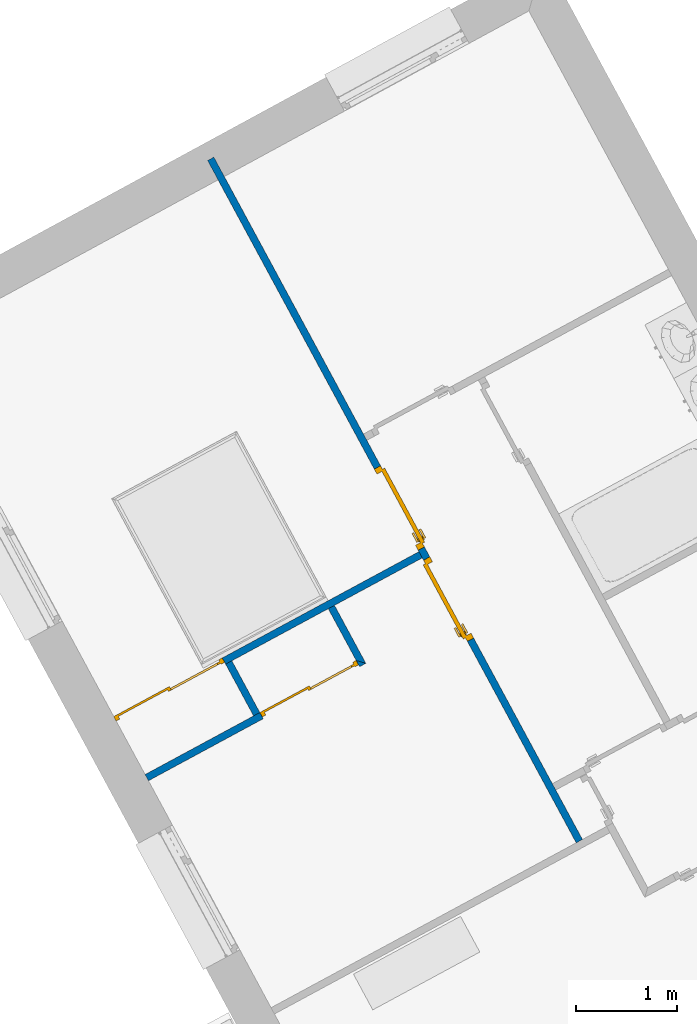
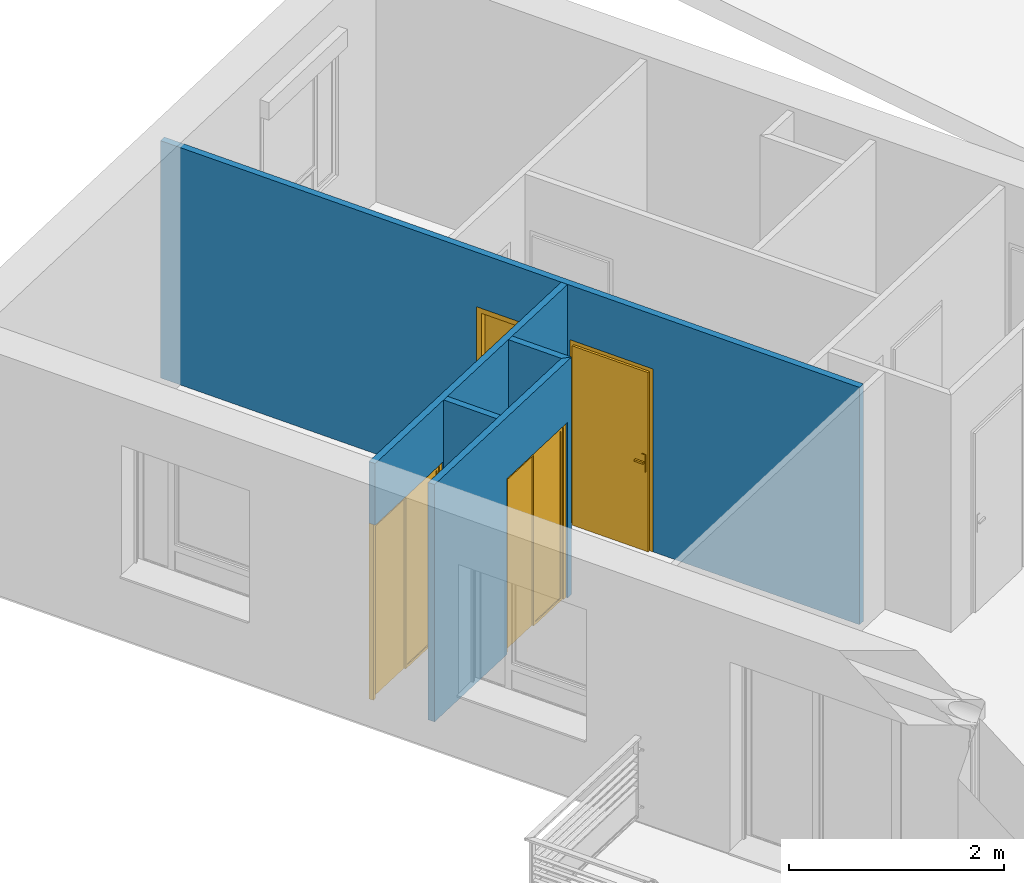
# One storey, part 53 of 121: 5 walls, 4 doors, 4 openings.
"""IFC2X3 building model written with IfcOpenShell, lengths in metres."""

import ifcopenshell
import ifcopenshell.guid

model = None  # the IFC model being written
_history = None  # IfcOwnerHistory: only IFC2X3 demands one
_inside = {}  # id of a spatial element -> (the spatial element, [elements in it])
_under = {}  # id of a project, library or spatial element -> (it, [spatial elements below it])
_declared = {}  # id of a project -> (the project, [libraries it declares])
_typed = {}  # id of a type object -> (the type object, [elements of that type])
_made_of = {}  # id of a material, layer set ... -> (it, [elements and type objects made of it])


def new_model(schema):
    """Start an empty IFC model of exactly this schema.

    Asked for "IFC4X3", IfcOpenShell would pick the latest addendum, in which some entities
    have other attributes; the version numbers below select the first issue.
    IFC2X3 requires an IfcOwnerHistory on every rooted entity: one is made here for all.
    """
    global model, _history
    if schema == "IFC4X3":
        model = ifcopenshell.file(schema_version=(4, 3, 0, 0))
    else:
        model = ifcopenshell.file(schema=schema)
    _inside.clear()
    _under.clear()
    _declared.clear()
    _typed.clear()
    _made_of.clear()
    _history = None
    if model.schema == "IFC2X3":
        org = make("IfcOrganization", Name="unknown")
        user = make(
            "IfcPersonAndOrganization",
            ThePerson=make("IfcPerson", FamilyName="unknown"),
            TheOrganization=org,
        )
        app = make(
            "IfcApplication",
            ApplicationDeveloper=org,
            Version="unknown",
            ApplicationFullName="unknown",
            ApplicationIdentifier="unknown",
        )
        _history = make(
            "IfcOwnerHistory",
            OwningUser=user,
            OwningApplication=app,
            ChangeAction="ADDED",
            CreationDate=0,
        )
    return model


def make(cls, **values):
    """One entity of the class cls with the attributes given. An attribute that is None is left unset."""
    return model.create_entity(
        cls, **{name: value for name, value in values.items() if value is not None}
    )


def entity(cls, *values):
    """Any entity or typed value of the class cls, its attributes in the order of the schema. None: left unset."""
    e = model.create_entity(cls)
    for i, value in enumerate(values):
        if value is not None:
            e[i] = value
    return e


def rooted(cls, **values):
    """An entity with a GlobalId (a new one), such as an element, a storey or a relation."""
    return make(cls, GlobalId=ifcopenshell.guid.new(), OwnerHistory=_history, **values)


def si_unit(unit_type, name, prefix=None):
    """IfcSIUnit, for example si_unit("LENGTHUNIT", "METRE", prefix="MILLI")."""
    return make("IfcSIUnit", UnitType=unit_type, Prefix=prefix, Name=name)


def converted_unit(unit_type, name, factor, base, dimensions=None, offset=None):
    """IfcConversionBasedUnit, such as the inch: factor (a typed value) times the base unit."""
    return make(
        "IfcConversionBasedUnit"
        if offset is None
        else "IfcConversionBasedUnitWithOffset",
        ConversionOffset=offset,
        Dimensions=None
        if dimensions is None
        else entity("IfcDimensionalExponents", *dimensions),
        UnitType=unit_type,
        Name=name,
        ConversionFactor=make(
            "IfcMeasureWithUnit", ValueComponent=factor, UnitComponent=base
        ),
    )


def derived_unit(unit_type, elements):
    """IfcDerivedUnit: a product of units, each with its exponent."""
    return make(
        "IfcDerivedUnit",
        Elements=[
            make("IfcDerivedUnitElement", Unit=unit, Exponent=power)
            for unit, power in elements
        ],
        UnitType=unit_type,
    )


def money_unit(currency):
    """IfcMonetaryUnit."""
    return make("IfcMonetaryUnit", Currency=currency)


def assignment(units):
    """IfcUnitAssignment: the units of a project."""
    return None if units is None else make("IfcUnitAssignment", Units=units)


def point(xyz):
    """IfcCartesianPoint."""
    return None if xyz is None else make("IfcCartesianPoint", Coordinates=xyz)


def direction(xyz):
    """IfcDirection."""
    return None if xyz is None else make("IfcDirection", DirectionRatios=xyz)


def frame(location, z_axis=None, x_axis=None):
    """IfcAxis2Placement3D, a coordinate frame: its origin and axes. An axis left out is left unset."""
    return make(
        "IfcAxis2Placement3D",
        Location=point(location),
        Axis=direction(z_axis),
        RefDirection=direction(x_axis),
    )


def frame_2d(location, x_axis=None):
    """IfcAxis2Placement2D, a coordinate frame in the plane: its origin and x axis."""
    return make(
        "IfcAxis2Placement2D", Location=point(location), RefDirection=direction(x_axis)
    )


def origin_with_axes():
    """The frame at (0, 0, 0) with the z axis (0, 0, 1) and the x axis (1, 0, 0) written out."""
    return frame((0.0, 0.0, 0.0), z_axis=(0.0, 0.0, 1.0), x_axis=(1.0, 0.0, 0.0))


def origin_2d_with_axis():
    """The frame at (0, 0) in the plane with the x axis (1, 0) written out."""
    return frame_2d((0.0, 0.0), x_axis=(1.0, 0.0))


def place(relative_to, where):
    """IfcLocalPlacement: puts the frame where relative to a parent placement (None: the world)."""
    return make(
        "IfcLocalPlacement", PlacementRelTo=relative_to, RelativePlacement=where
    )


def context(
    kind, dimensions, precision=None, world=None, true_north=None, identifier=None
):
    """IfcGeometricRepresentationContext, for example the 3D "Model" context."""
    return make(
        "IfcGeometricRepresentationContext",
        ContextIdentifier=identifier,
        ContextType=kind,
        CoordinateSpaceDimension=dimensions,
        Precision=precision,
        WorldCoordinateSystem=world,
        TrueNorth=true_north,
    )


def subcontext(parent, identifier, kind, view, scale=None):
    """IfcGeometricRepresentationSubContext, for example "Body" below "Model"."""
    return make(
        "IfcGeometricRepresentationSubContext",
        ContextIdentifier=identifier,
        ContextType=kind,
        ParentContext=parent,
        TargetScale=scale,
        TargetView=view,
    )


def project(units=None, contexts=None):
    """IfcProject with its units and contexts."""
    return rooted(
        "IfcProject",
        Name="project",
        RepresentationContexts=contexts,
        UnitsInContext=assignment(units),
    )


def spatial(cls, under=None, at=None, **own):
    """A site, building, storey or space (cls), placed at a placement, below another one or the project."""
    s = rooted(cls, ObjectPlacement=at, **own)
    if under is not None:
        _under.setdefault(under.id(), (under, []))[1].append(s)
    return s


def polyline(points):
    """IfcPolyline through the points."""
    return make("IfcPolyline", Points=[point(p) for p in points])


def profile(cls, at=None, kind="AREA", **sizes):
    """A parametric profile (cls). Its sizes go by their IFC names, for example OverallWidth=200.0."""
    return make(cls, ProfileType=kind, Position=at, **sizes)


def rectangle(**sizes):
    """IfcRectangleProfileDef."""
    return profile("IfcRectangleProfileDef", **sizes)


def outline(outer, holes=None, kind="AREA"):
    """IfcArbitraryClosedProfileDef: a profile drawn as a closed curve; with holes, ...WithVoids."""
    if holes is None:
        return make("IfcArbitraryClosedProfileDef", ProfileType=kind, OuterCurve=outer)
    return make(
        "IfcArbitraryProfileDefWithVoids",
        ProfileType=kind,
        OuterCurve=outer,
        InnerCurves=holes,
    )


def extrude(swept, where, along, depth):
    """IfcExtrudedAreaSolid: the profile swept, set in the frame where, extruded along a direction by depth."""
    return make(
        "IfcExtrudedAreaSolid",
        SweptArea=swept,
        Position=where,
        ExtrudedDirection=direction(along),
        Depth=depth,
    )


def faces_of(points, faces, orient=None, outer=None):
    """IfcFace entities. A face is a list of loops; a loop is a list of indices into points, from 0.

    orient and outer hold one flag for each loop. By default every Orientation is true, the
    first loop of a face is its IfcFaceOuterBound and the others are IfcFaceBound.
    """
    made = []
    for i, loops in enumerate(faces):
        bounds = []
        for j, loop in enumerate(loops):
            is_outer = j == 0 if outer is None else outer[i][j]
            bounds.append(
                make(
                    "IfcFaceOuterBound" if is_outer else "IfcFaceBound",
                    Bound=make("IfcPolyLoop", Polygon=[points[k] for k in loop]),
                    Orientation=True if orient is None else orient[i][j],
                )
            )
        made.append(make("IfcFace", Bounds=bounds))
    return made


def open_shell(faces, orient=None, outer=None):
    """The faces of one IfcOpenShell. surface_model builds it on its shared points."""
    return ("IfcOpenShell", faces, orient, outer)


def faceted_brep(points, faces, orient=None, outer=None, voids=None):
    """IfcFacetedBrep: a solid bounded by flat faces; with voids (closed shells), ...WithVoids."""
    shared = [point(p) for p in points]
    hull = make("IfcClosedShell", CfsFaces=faces_of(shared, faces, orient, outer))
    if voids is None:
        return make("IfcFacetedBrep", Outer=hull)
    return make(
        "IfcFacetedBrepWithVoids",
        Outer=hull,
        Voids=[
            make(cls, CfsFaces=faces_of(shared, fs, o, b)) for cls, fs, o, b in voids
        ],
    )


def surface_model(cls, points, shells):
    """IfcFaceBasedSurfaceModel or IfcShellBasedSurfaceModel (cls): surfaces that need not close."""
    shared = [point(p) for p in points]
    made = [make(c, CfsFaces=faces_of(shared, fs, o, b)) for c, fs, o, b in shells]
    if cls == "IfcFaceBasedSurfaceModel":
        return make(cls, FbsmFaces=made)
    return make(cls, SbsmBoundary=made)


def shape(context_of_items, identifier, shape_type, items):
    """IfcShapeRepresentation: the items that make up one representation, for example the "Body"."""
    return make(
        "IfcShapeRepresentation",
        ContextOfItems=context_of_items,
        RepresentationIdentifier=identifier,
        RepresentationType=shape_type,
        Items=items,
    )


def source(mapping_origin, context_of_items, identifier, shape_type, items):
    """IfcRepresentationMap: a shape defined once, which mapped items show again and again."""
    return make(
        "IfcRepresentationMap",
        MappingOrigin=mapping_origin,
        MappedRepresentation=shape(context_of_items, identifier, shape_type, items),
    )


def transform(
    local_origin,
    x_axis=None,
    y_axis=None,
    z_axis=None,
    scale=None,
    scale2=None,
    scale3=None,
    uniform=True,
):
    """IfcCartesianTransformationOperator3D, or its non-uniform kind. x_axis, y_axis, z_axis: its Axis1, 2, 3."""
    if uniform:
        return make(
            "IfcCartesianTransformationOperator3D",
            Axis1=direction(x_axis),
            Axis2=direction(y_axis),
            LocalOrigin=point(local_origin),
            Scale=scale,
            Axis3=direction(z_axis),
        )
    return make(
        "IfcCartesianTransformationOperator3DnonUniform",
        Axis1=direction(x_axis),
        Axis2=direction(y_axis),
        LocalOrigin=point(local_origin),
        Scale=scale,
        Axis3=direction(z_axis),
        Scale2=scale2,
        Scale3=scale3,
    )


def mapped(mapping_source, mapping_target):
    """IfcMappedItem: shows the shape of a source again, moved by a transform."""
    return make(
        "IfcMappedItem", MappingSource=mapping_source, MappingTarget=mapping_target
    )


def material(Name=None, Category=None):
    """IfcMaterial."""
    return make("IfcMaterial", Name=Name, Category=Category)


def layer(
    of_material, thickness, ventilated=None, Name=None, Category=None, Priority=None
):
    """IfcMaterialLayer: one layer of a wall or slab, of a material (None: an air gap)."""
    return make(
        "IfcMaterialLayer",
        Material=of_material,
        LayerThickness=thickness,
        IsVentilated=ventilated,
        Name=Name,
        Category=Category,
        Priority=Priority,
    )


def layer_set(layers, Name=None):
    """IfcMaterialLayerSet."""
    return make("IfcMaterialLayerSet", MaterialLayers=layers, LayerSetName=Name)


def layer_usage(for_layer_set, set_direction, sense, offset, extent=None):
    """IfcMaterialLayerSetUsage: how a layer set lies in its element."""
    return make(
        "IfcMaterialLayerSetUsage",
        ForLayerSet=for_layer_set,
        LayerSetDirection=set_direction,
        DirectionSense=sense,
        OffsetFromReferenceLine=offset,
        ReferenceExtent=extent,
    )


def made_of(thing, what):
    """Note that an element or type object is made of a material, layer set ...; save() writes the relation."""
    if what is not None:
        _made_of.setdefault(what.id(), (what, []))[1].append(thing)
    return thing


def type_object(cls, material=None, **own):
    """A type object (cls), such as IfcWallType, which elements share."""
    return made_of(rooted(cls, **own), material)


def element(
    cls,
    number,
    at=None,
    inside=None,
    cuts=None,
    type_object=None,
    material=None,
    context=None,
    identifier="Body",
    shape_type=None,
    held_by="IfcProductDefinitionShape",
    body=None,
    shapes=None,
    **own,
):
    """One element of the class cls, such as IfcWall. Its Tag is "e" and its number.

    at: its placement. inside: the storey or other place that contains it. cuts: it is an
    opening in that element (IfcRelVoidsElement). A single representation is given by context,
    identifier, shape_type and body (its items); several are given by shapes. held_by: the class
    of the entity that holds the representations. save() writes the other relations.
    """
    e = rooted(cls, Tag="e%d" % number, ObjectPlacement=at, **own)
    if body is not None:
        shapes = [shape(context, identifier, shape_type, body)]
    if shapes is not None:
        e.Representation = make(held_by, Representations=shapes)
    if inside is not None:
        _inside.setdefault(inside.id(), (inside, []))[1].append(e)
    if cuts is not None:
        rooted(
            "IfcRelVoidsElement", RelatingBuildingElement=cuts, RelatedOpeningElement=e
        )
    if type_object is not None:
        _typed.setdefault(type_object.id(), (type_object, []))[1].append(e)
    return made_of(e, material)


def fill(opening, filler):
    """IfcRelFillsElement: the door or window that sits in an opening."""
    return rooted(
        "IfcRelFillsElement",
        RelatingOpeningElement=opening,
        RelatedBuildingElement=filler,
    )


def aggregate(whole, parts):
    """IfcRelAggregates: a whole, such as a stair, and the parts it consists of."""
    return rooted("IfcRelAggregates", RelatingObject=whole, RelatedObjects=parts)


def save(model, path):
    """Write the relations noted so far, then the file.

    IfcRelAggregates (storeys below a building ...), IfcRelContainedInSpatialStructure (elements
    in a storey), IfcRelDefinesByType, IfcRelAssociatesMaterial and IfcRelDeclares: one each for
    every whole, place, type object, material and project.
    """
    for whole, parts in _under.values():
        aggregate(whole, parts)
    for where, things in _inside.values():
        rooted(
            "IfcRelContainedInSpatialStructure",
            RelatedElements=things,
            RelatingStructure=where,
        )
    for kind, things in _typed.values():
        rooted("IfcRelDefinesByType", RelatedObjects=things, RelatingType=kind)
    for what, things in _made_of.values():
        rooted("IfcRelAssociatesMaterial", RelatedObjects=things, RelatingMaterial=what)
    for by, libraries in _declared.values():
        rooted("IfcRelDeclares", RelatingContext=by, RelatedDefinitions=libraries)
    model.write(path)


model = new_model("IFC2X3")

# Units and contexts
model_context = context("Model", 3, precision=1e-05, world=origin_with_axes(), true_north=direction((0.0, 1.0)))
body_context = subcontext(model_context, "Body", "Model", "MODEL_VIEW")
ifc_project = project(units=[si_unit("LENGTHUNIT", "METRE"), si_unit("AREAUNIT", "SQUARE_METRE"), si_unit("VOLUMEUNIT", "CUBIC_METRE"), converted_unit("PLANEANGLEUNIT", "DEGREE", entity("IfcPlaneAngleMeasure", 0.0174532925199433), si_unit("PLANEANGLEUNIT", "RADIAN"), dimensions=[0, 0, 0, 0, 0, 0, 0]), money_unit("CHF"), converted_unit("TIMEUNIT", "Year", entity("IfcTimeMeasure", 31557600.0), si_unit("TIMEUNIT", "SECOND"), dimensions=[0, 0, 1, 0, 0, 0, 0]), si_unit("MASSUNIT", "GRAM", prefix="KILO"), si_unit("THERMODYNAMICTEMPERATUREUNIT", "DEGREE_CELSIUS"), si_unit("LUMINOUSINTENSITYUNIT", "LUMEN"), si_unit("ENERGYUNIT", "JOULE", prefix="MEGA"), derived_unit("THERMALCONDUCTANCEUNIT", [(si_unit("POWERUNIT", "WATT"), 1), (si_unit("LENGTHUNIT", "METRE"), -1), (si_unit("THERMODYNAMICTEMPERATUREUNIT", "KELVIN"), -1)]), derived_unit("SPECIFICHEATCAPACITYUNIT", [(si_unit("ENERGYUNIT", "JOULE"), 1), (si_unit("MASSUNIT", "GRAM", prefix="KILO"), -1), (si_unit("THERMODYNAMICTEMPERATUREUNIT", "KELVIN"), -1)]), derived_unit("MASSDENSITYUNIT", [(si_unit("MASSUNIT", "GRAM", prefix="KILO"), 1), (si_unit("VOLUMEUNIT", "CUBIC_METRE"), -1)])], contexts=[model_context])

# Site, building, storey
site_placement = place(None, origin_with_axes())
site = spatial("IfcSite", under=ifc_project, at=site_placement, Name="Site", CompositionType="ELEMENT")
building_placement = place(site_placement, origin_with_axes())
building = spatial("IfcBuilding", under=site, at=building_placement, Name="Bâtiment", CompositionType="ELEMENT")
storey_placement = place(building_placement, frame((0.0, 0.0, 2.75), z_axis=(0.0, 0.0, 1.0), x_axis=(1.0, 0.0, 0.0)))
storey = spatial("IfcBuildingStorey", under=building, at=storey_placement, Name="Etage 1", CompositionType="ELEMENT", Elevation=2.75)

# Wall
ifc_material = material(Name="Hachure solide 268963992")
ifc_layer = layer(ifc_material, 0.07, ventilated="UNKNOWN")
ifc_layer_set = layer_set([ifc_layer], Name="Cloison 70 0826278243")
ifc_layer_usage_1 = layer_usage(ifc_layer_set, "AXIS2", "NEGATIVE", 0.0)
wall_type = type_object("IfcWallType", Name="Cloison 70 0826278243 70", PredefinedType="NOTDEFINED")
wall_1_placement = place(storey_placement, frame((9558.45104913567, -1031.539302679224, 57.7), z_axis=(0.0, 0.0, 1.0), x_axis=(-0.4753186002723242, 0.8798137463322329, 0.0)))
element("IfcWallStandardCase", 1, at=wall_1_placement, inside=storey, type_object=wall_type, material=ifc_layer_usage_1, Name="Mur-149", context=body_context, shape_type="SweptSolid", body=[
    extrude(outline(polyline([(0.07000000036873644, -0.07000000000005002), (0.6499928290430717, -0.07000000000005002), (0.6499928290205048, 0.0), (0.07000000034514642, 0.0), (0.07000000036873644, -0.07000000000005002)])), origin_with_axes(), (0.0, 0.0, 1.0), 2.7),
])

# Wall, opening, door
ifc_layer_usage_2 = layer_usage(ifc_layer_set, "AXIS2", "NEGATIVE", 0.0)
wall_2_placement = place(storey_placement, frame((9559.463161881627, -1030.992509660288, 57.7), z_axis=(0.0, 0.0, 1.0), x_axis=(-0.8798137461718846, -0.4753186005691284, 0.0)))
wall_2 = element("IfcWallStandardCase", 2, at=wall_2_placement, inside=storey, type_object=wall_type, material=ifc_layer_usage_2, Name="Mur-149", context=body_context, shape_type="SweptSolid", body=[
    extrude(outline(polyline([(0.0, -0.06999999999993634), (2.366839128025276, -0.06999999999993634), (2.366839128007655, 0.0), (-0.07000000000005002, 0.0), (0.0, -0.06999999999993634)])), origin_with_axes(), (0.0, 0.0, 1.0), 2.7),
])
opening_1_placement = place(wall_2_placement, frame((0.5401857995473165, 0.0, 0.0), z_axis=(0.0, 0.0, 1.0), x_axis=(1.0, 0.0, 0.0)))
opening_1 = element("IfcOpeningElement", 3, at=opening_1_placement, cuts=wall_2, Name="Por-350", context=body_context, shape_type="SweptSolid", body=[
    extrude(rectangle(XDim=1.080371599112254, YDim=2.0, at=origin_2d_with_axis()), frame((0.0, -0.06999999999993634, 1.0), z_axis=(0.0, 1.0, 0.0), x_axis=(1.0, 0.0, 0.0)), (0.0, 0.0, -1.0), 0.07),
    extrude(rectangle(XDim=1.080371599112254, YDim=2.0, at=origin_2d_with_axis()), frame((0.0, -0.06999999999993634, 1.0), z_axis=(0.0, -1.0, 0.0), x_axis=(1.0, 0.0, 0.0)), (0.0, 0.0, -1.0), 0.07),
])
door_style_1 = type_object("IfcDoorStyle", ConstructionType="NOTDEFINED", OperationType="NOTDEFINED", ParameterTakesPrecedence=False, Sizeable=False)
shared_shape_1 = source(origin_with_axes(), body_context, "Body", "SurfaceModel", [
    faceted_brep([(-0.5401857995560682, 0.0, 0.0), (-0.5401857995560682, 0.0, 2.0), (0.5401857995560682, 0.0, 2.0), (0.5401857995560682, 0.0, 0.0), (0.5001857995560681, 0.0, 0.0), (0.5001857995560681, 0.0, 1.96), (-0.5001857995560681, 0.0, 1.96), (-0.5001857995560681, 0.0, 0.0), (-0.5401857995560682, -0.05, 0.0), (-0.5401857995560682, -0.05, 2.0), (0.5401857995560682, -0.05, 2.0), (0.5401857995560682, -0.05, 0.0), (0.5001857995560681, -0.05, 0.0), (0.5001857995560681, -0.04, 0.0), (0.5001857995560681, -0.04, 1.96), (-0.5001857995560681, -0.04, 1.96), (-0.5001857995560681, -0.04, 0.0), (-0.5001857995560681, -0.05, 0.0), (-0.5001857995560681, -0.05, 1.96), (0.5001857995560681, -0.05, 1.96)], [[[0, 1, 2, 3, 4, 5, 6, 7]], [[8, 9, 1, 0]], [[9, 10, 2, 1]], [[10, 11, 3, 2]], [[3, 11, 12, 13, 4]], [[5, 4, 13, 14]], [[6, 5, 14, 15]], [[7, 6, 15, 16]], [[0, 7, 16, 17, 8]], [[17, 18, 19, 12, 11, 10, 9, 8]], [[14, 13, 12, 19]], [[15, 14, 19, 18]], [[16, 15, 18, 17]]]),
    faceted_brep([(0.5001857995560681, -0.02, 0.0), (0.5001857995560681, -0.04, 0.0), (-0.01500000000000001, -0.04, 0.0), (-0.01500000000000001, -0.02, 0.0), (0.5001857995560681, -0.02, 1.96), (0.5001857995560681, -0.04, 1.96), (-0.01500000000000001, -0.04, 1.96), (0.4701857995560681, -0.04, 0.03), (0.01500000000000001, -0.04, 0.03), (0.01500000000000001, -0.04, 1.93), (0.4701857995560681, -0.04, 1.93), (-0.01500000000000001, -0.02, 1.96), (0.4701857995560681, -0.02, 0.03), (0.4701857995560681, -0.02, 1.93), (0.01500000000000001, -0.02, 1.93), (0.01500000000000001, -0.02, 0.03)], [[[0, 1, 2, 3]], [[4, 5, 1, 0]], [[1, 5, 6, 2], [7, 8, 9, 10]], [[3, 2, 6, 11]], [[0, 3, 11, 4], [12, 13, 14, 15]], [[11, 6, 5, 4]], [[15, 8, 7, 12]], [[14, 9, 8, 15]], [[13, 10, 9, 14]], [[12, 7, 10, 13]]]),
    surface_model("IfcShellBasedSurfaceModel", [(0.4701857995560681, -0.03, 0.03), (0.4701857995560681, -0.03, 1.93), (0.01499999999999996, -0.03, 1.93), (0.01499999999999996, -0.03, 0.03)], [open_shell([[[0, 1, 2, 3]]])]),
    faceted_brep([(0.01500000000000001, 0.0, 0.0), (0.01500000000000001, -0.02, 0.0), (-0.5001857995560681, -0.02, 0.0), (-0.5001857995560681, 0.0, 0.0), (0.01500000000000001, 0.0, 1.96), (0.01500000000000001, -0.02, 1.96), (-0.5001857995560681, -0.02, 1.96), (-0.5001857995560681, 0.0, 1.96)], [[[0, 1, 2, 3]], [[4, 5, 1, 0]], [[1, 5, 6, 2]], [[3, 2, 6, 7]], [[0, 3, 7, 4]], [[7, 6, 5, 4]]]),
])
door_1_placement = place(opening_1_placement, frame((0.5401857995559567, 0.0, 0.0), z_axis=(0.0, 0.0, 1.0), x_axis=(-1.0, 0.0, 0.0)))
door_1 = element("IfcDoor", 4, at=door_1_placement, inside=storey, type_object=door_style_1, Name="Por-350", OverallHeight=2.0, OverallWidth=1.08037, context=body_context, shape_type="MappedRepresentation", body=[
    mapped(shared_shape_1, transform((0.5401857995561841, 0.06999999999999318, 0.0))),
])
fill(opening_1, door_1)

# Wall
ifc_layer_usage_3 = layer_usage(ifc_layer_set, "AXIS2", "NEGATIVE", 0.0)
wall_3_placement = place(storey_placement, frame((9559.463161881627, -1030.992509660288, 57.7), z_axis=(0.0, 0.0, 1.0), x_axis=(-0.4753186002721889, 0.879813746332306, 0.0)))
element("IfcWallStandardCase", 5, at=wall_3_placement, inside=storey, type_object=wall_type, material=ifc_layer_usage_3, Name="Mur-149", context=body_context, shape_type="SweptSolid", body=[
    extrude(outline(polyline([(0.0, -0.06999999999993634), (0.6499928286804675, -0.07000000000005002), (0.6499928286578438, 0.0), (0.06999999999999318, 0.0), (0.0, -0.06999999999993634)])), origin_with_axes(), (0.0, 0.0, 1.0), 2.7),
])

# Wall, openings, doors
ifc_layer_usage_4 = layer_usage(ifc_layer_set, "AXIS2", "NEGATIVE", 0.0)
wall_4_placement = place(storey_placement, frame((9558.02583977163, -1025.966655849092, 57.7), z_axis=(0.0, 0.0, 1.0), x_axis=(0.4753186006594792, -0.8798137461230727, 0.0)))
wall_4 = element("IfcWallStandardCase", 6, at=wall_4_placement, inside=storey, type_object=wall_type, material=ifc_layer_usage_4, Name="Mur-149", context=body_context, shape_type="SweptSolid", body=[
    extrude(outline(polyline([(0.0, -0.06999999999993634), (7.649325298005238, -0.06999999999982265), (7.649325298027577, 0.0), (0.0, 0.0), (0.0, -0.06999999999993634)])), origin_with_axes(), (0.0, 0.0, 1.0), 2.7),
])
opening_2_placement = place(wall_4_placement, frame((3.914710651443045, 0.0, 0.0), z_axis=(0.0, 0.0, 1.0), x_axis=(1.0, 0.0, 0.0)))
opening_2 = element("IfcOpeningElement", 7, at=opening_2_placement, cuts=wall_4, Name="Por-301", context=body_context, shape_type="SweptSolid", body=[
    extrude(rectangle(XDim=0.9099999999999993, YDim=2.079999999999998, at=origin_2d_with_axis()), frame((0.0, -0.06999999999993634, 1.039999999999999), z_axis=(0.0, -1.0, 0.0), x_axis=(-1.0, 0.0, 0.0)), (0.0, 0.0, -1.0), 0.14),
])
opening_3_placement = place(wall_4_placement, frame((4.935912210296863, 0.0, 0.0), z_axis=(0.0, 0.0, 1.0), x_axis=(1.0, 0.0, 0.0)))
opening_3 = element("IfcOpeningElement", 8, at=opening_3_placement, cuts=wall_4, Name="Por-302", context=body_context, shape_type="SweptSolid", body=[
    extrude(rectangle(XDim=0.9099999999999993, YDim=2.079999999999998, at=origin_2d_with_axis()), frame((0.0, 0.06999999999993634, 1.039999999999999), z_axis=(0.0, -1.0, 0.0), x_axis=(-1.0, 0.0, 0.0)), (0.0, 0.0, 1.0), 0.14),
])
door_style_2 = type_object("IfcDoorStyle", Name="Porte_1v", ConstructionType="NOTDEFINED", OperationType="NOTDEFINED", ParameterTakesPrecedence=False, Sizeable=False)
shared_shape_2 = source(origin_with_axes(), body_context, "Body", "Brep", [
    faceted_brep([(0.455, 0.0, 0.0), (0.415, 0.0, 0.0), (0.415, 0.0, 2.04), (-0.415, 0.0, 2.04), (-0.415, 0.0, 0.0), (-0.455, 0.0, 0.0), (-0.455, 0.0, 2.08), (0.455, 0.0, 2.08), (0.455, -0.07, 0.0), (0.4, -0.07, 0.0), (0.4, -0.015, 0.0), (0.415, -0.015, 0.0), (0.415, -0.015, 2.04), (-0.415, -0.015, 2.04), (-0.415, -0.015, 0.0), (-0.4, -0.015, 0.0), (-0.4, -0.07, 0.0), (-0.455, -0.07, 0.0), (-0.455, -0.07, 2.08), (0.455, -0.07, 2.08), (-0.4, -0.07, 2.025), (0.4, -0.07, 2.025), (0.4, -0.015, 2.025), (-0.4, -0.015, 2.025)], [[[0, 1, 2, 3, 4, 5, 6, 7]], [[0, 8, 9, 10, 11, 1]], [[1, 11, 12, 2]], [[2, 12, 13, 3]], [[3, 13, 14, 4]], [[5, 4, 14, 15, 16, 17]], [[18, 6, 5, 17]], [[19, 7, 6, 18]], [[8, 0, 7, 19]], [[9, 8, 19, 18, 17, 16, 20, 21]], [[10, 9, 21, 22]], [[11, 10, 22, 23, 15, 14, 13, 12]], [[23, 20, 16, 15]], [[22, 21, 20, 23]]]),
    faceted_brep([(-0.35, -0.015, 0.9), (-0.39, -0.015, 0.9), (-0.39, -0.015, 1.1), (-0.35, -0.015, 1.1), (-0.35, -0.025, 0.9), (-0.39, -0.025, 0.9), (-0.39, -0.025, 1.1), (-0.35, -0.025, 1.1)], [[[0, 1, 2, 3]], [[1, 0, 4, 5]], [[2, 1, 5, 6]], [[3, 2, 6, 7]], [[0, 3, 7, 4]], [[5, 4, 7, 6]]]),
    faceted_brep([(-0.28, -0.025, 1.0), (-0.38, -0.025, 1.0), (-0.38, -0.025, 1.02), (-0.28, -0.025, 1.02), (-0.28, -0.045, 1.0), (-0.38, -0.045, 1.0), (-0.38, -0.045, 1.02), (-0.28, -0.045, 1.02)], [[[0, 1, 2, 3]], [[1, 0, 4, 5]], [[2, 1, 5, 6]], [[3, 2, 6, 7]], [[0, 3, 7, 4]], [[5, 4, 7, 6]]]),
    faceted_brep([(-0.35, 0.035, 0.9), (-0.39, 0.035, 0.9), (-0.39, 0.035, 1.1), (-0.35, 0.035, 1.1), (-0.35, 0.025, 0.9), (-0.39, 0.025, 0.9), (-0.39, 0.025, 1.1), (-0.35, 0.025, 1.1)], [[[0, 1, 2, 3]], [[1, 0, 4, 5]], [[2, 1, 5, 6]], [[3, 2, 6, 7]], [[0, 3, 7, 4]], [[5, 4, 7, 6]]]),
    faceted_brep([(-0.28, 0.05500000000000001, 1.0), (-0.38, 0.05500000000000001, 1.0), (-0.38, 0.05500000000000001, 1.02), (-0.28, 0.05500000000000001, 1.02), (-0.28, 0.035, 1.0), (-0.38, 0.035, 1.0), (-0.38, 0.035, 1.02), (-0.28, 0.035, 1.02)], [[[0, 1, 2, 3]], [[1, 0, 4, 5]], [[2, 1, 5, 6]], [[3, 2, 6, 7]], [[0, 3, 7, 4]], [[5, 4, 7, 6]]]),
    faceted_brep([(-0.415, 0.025, 0.0), (0.415, 0.025, 0.0), (0.415, -0.015, 0.0), (-0.415, -0.015, 0.0), (-0.415, 0.025, 2.04), (0.415, 0.025, 2.04), (0.415, -0.015, 2.04), (-0.415, -0.015, 2.04)], [[[0, 1, 2, 3]], [[0, 4, 5, 1]], [[1, 5, 6, 2]], [[3, 2, 6, 7]], [[4, 0, 3, 7]], [[5, 4, 7, 6]]]),
])
door_2_placement = place(opening_3_placement, frame((0.4150000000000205, 0.0, 0.0), z_axis=(0.0, 0.0, 1.0), x_axis=(-1.0, 0.0, 0.0)))
door_2 = element("IfcDoor", 9, at=door_2_placement, inside=storey, type_object=door_style_2, Name="Por-302", OverallHeight=2.04, OverallWidth=0.83, context=body_context, shape_type="MappedRepresentation", body=[
    mapped(shared_shape_2, transform((0.4149999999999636, 0.06999999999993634, 0.0))),
])
fill(opening_3, door_2)
shared_shape_3 = source(origin_with_axes(), body_context, "Body", "Brep", [
    faceted_brep([(-0.455, 0.0, 0.0), (-0.455, 0.0, 2.08), (0.455, 0.0, 2.08), (0.455, 0.0, 0.0), (0.415, 0.0, 0.0), (0.415, 0.0, 2.04), (-0.415, 0.0, 2.04), (-0.415, 0.0, 0.0), (-0.455, -0.07, 0.0), (-0.455, -0.07, 2.08), (0.455, -0.07, 2.08), (0.455, -0.07, 0.0), (0.4, -0.07, 0.0), (0.4, -0.015, 0.0), (0.415, -0.015, 0.0), (0.415, -0.015, 2.04), (-0.415, -0.015, 2.04), (-0.415, -0.015, 0.0), (-0.4, -0.015, 0.0), (-0.4, -0.07, 0.0), (-0.4, -0.07, 2.025), (0.4, -0.07, 2.025), (0.4, -0.015, 2.025), (-0.4, -0.015, 2.025)], [[[0, 1, 2, 3, 4, 5, 6, 7]], [[8, 9, 1, 0]], [[9, 10, 2, 1]], [[10, 11, 3, 2]], [[3, 11, 12, 13, 14, 4]], [[5, 4, 14, 15]], [[6, 5, 15, 16]], [[7, 6, 16, 17]], [[0, 7, 17, 18, 19, 8]], [[19, 20, 21, 12, 11, 10, 9, 8]], [[22, 13, 12, 21]], [[17, 16, 15, 14, 13, 22, 23, 18]], [[18, 23, 20, 19]], [[23, 22, 21, 20]]]),
    faceted_brep([(0.35, -0.015, 0.9), (0.35, -0.015, 1.1), (0.39, -0.015, 1.1), (0.39, -0.015, 0.9), (0.35, -0.025, 0.9), (0.35, -0.025, 1.1), (0.39, -0.025, 1.1), (0.39, -0.025, 0.9)], [[[0, 1, 2, 3]], [[0, 4, 5, 1]], [[1, 5, 6, 2]], [[2, 6, 7, 3]], [[3, 7, 4, 0]], [[7, 6, 5, 4]]]),
    faceted_brep([(0.28, -0.025, 1.0), (0.28, -0.025, 1.02), (0.38, -0.025, 1.02), (0.38, -0.025, 1.0), (0.28, -0.045, 1.0), (0.28, -0.045, 1.02), (0.38, -0.045, 1.02), (0.38, -0.045, 1.0)], [[[0, 1, 2, 3]], [[0, 4, 5, 1]], [[1, 5, 6, 2]], [[2, 6, 7, 3]], [[3, 7, 4, 0]], [[7, 6, 5, 4]]]),
    faceted_brep([(0.35, 0.035, 0.9), (0.35, 0.035, 1.1), (0.39, 0.035, 1.1), (0.39, 0.035, 0.9), (0.35, 0.025, 0.9), (0.35, 0.025, 1.1), (0.39, 0.025, 1.1), (0.39, 0.025, 0.9)], [[[0, 1, 2, 3]], [[0, 4, 5, 1]], [[1, 5, 6, 2]], [[2, 6, 7, 3]], [[3, 7, 4, 0]], [[7, 6, 5, 4]]]),
    faceted_brep([(0.28, 0.05500000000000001, 1.0), (0.28, 0.05500000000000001, 1.02), (0.38, 0.05500000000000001, 1.02), (0.38, 0.05500000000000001, 1.0), (0.28, 0.035, 1.0), (0.28, 0.035, 1.02), (0.38, 0.035, 1.02), (0.38, 0.035, 1.0)], [[[0, 1, 2, 3]], [[0, 4, 5, 1]], [[1, 5, 6, 2]], [[2, 6, 7, 3]], [[3, 7, 4, 0]], [[7, 6, 5, 4]]]),
    faceted_brep([(0.415, 0.025, 0.0), (0.415, -0.015, 0.0), (-0.415, -0.015, 0.0), (-0.415, 0.025, 0.0), (0.415, 0.025, 2.04), (0.415, -0.015, 2.04), (-0.415, -0.015, 2.04), (-0.415, 0.025, 2.04)], [[[0, 1, 2, 3]], [[4, 5, 1, 0]], [[1, 5, 6, 2]], [[3, 2, 6, 7]], [[0, 3, 7, 4]], [[7, 6, 5, 4]]]),
])
door_3_placement = place(opening_2_placement, frame((-0.4149999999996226, 0.0, 0.0), z_axis=(0.0, 0.0, 1.0), x_axis=(1.0, 0.0, 0.0)))
door_3 = element("IfcDoor", 10, at=door_3_placement, inside=storey, type_object=door_style_2, Name="Por-301", OverallHeight=2.04, OverallWidth=0.83, context=body_context, shape_type="MappedRepresentation", body=[
    mapped(shared_shape_3, transform((0.4149999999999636, 0.0, 0.0))),
])
fill(opening_2, door_3)

# Wall, opening, door
ifc_layer_usage_5 = layer_usage(ifc_layer_set, "AXIS2", "NEGATIVE", 0.0)
wall_5_placement = place(storey_placement, frame((9560.14338811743, -1029.886233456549, 57.7), z_axis=(0.0, 0.0, 1.0), x_axis=(-0.8798137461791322, -0.4753186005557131, 0.0)))
wall_5 = element("IfcWallStandardCase", 11, at=wall_5_placement, inside=storey, type_object=wall_type, material=ifc_layer_usage_5, Name="Mur-149", context=body_context, shape_type="SweptSolid", body=[
    extrude(outline(polyline([(0.06999999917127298, -0.06999999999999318), (3.491145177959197, -0.06999999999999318), (3.491145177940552, 0.0), (0.06999999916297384, 0.0), (0.06999999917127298, -0.06999999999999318)])), origin_with_axes(), (0.0, 0.0, 1.0), 2.7),
])
opening_4_placement = place(wall_5_placement, frame((2.882911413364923, 0.0, 0.0), z_axis=(0.0, 0.0, 1.0), x_axis=(1.0, 0.0, 0.0)))
opening_4 = element("IfcOpeningElement", 12, at=opening_4_placement, cuts=wall_5, Name="Por-351", context=body_context, shape_type="SweptSolid", body=[
    extrude(rectangle(XDim=1.216467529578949, YDim=2.0, at=origin_2d_with_axis()), frame((0.0, -0.07000000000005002, 1.0), z_axis=(0.0, 1.0, 0.0), x_axis=(1.0, 0.0, 0.0)), (0.0, 0.0, -1.0), 0.07),
    extrude(rectangle(XDim=1.216467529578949, YDim=2.0, at=origin_2d_with_axis()), frame((0.0, -0.07000000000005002, 1.0), z_axis=(0.0, -1.0, 0.0), x_axis=(1.0, 0.0, 0.0)), (0.0, 0.0, -1.0), 0.07),
])
shared_shape_4 = source(origin_with_axes(), body_context, "Body", "SurfaceModel", [
    faceted_brep([(-0.6082337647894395, 0.0, 0.0), (-0.6082337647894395, 0.0, 2.0), (0.6082337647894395, 0.0, 2.0), (0.6082337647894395, 0.0, 0.0), (0.5682337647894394, 0.0, 0.0), (0.5682337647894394, 0.0, 1.96), (-0.5682337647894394, 0.0, 1.96), (-0.5682337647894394, 0.0, 0.0), (-0.6082337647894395, -0.05, 0.0), (-0.6082337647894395, -0.05, 2.0), (0.6082337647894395, -0.05, 2.0), (0.6082337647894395, -0.05, 0.0), (0.5682337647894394, -0.05, 0.0), (0.5682337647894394, -0.04, 0.0), (0.5682337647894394, -0.04, 1.96), (-0.5682337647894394, -0.04, 1.96), (-0.5682337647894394, -0.04, 0.0), (-0.5682337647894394, -0.05, 0.0), (-0.5682337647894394, -0.05, 1.96), (0.5682337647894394, -0.05, 1.96)], [[[0, 1, 2, 3, 4, 5, 6, 7]], [[8, 9, 1, 0]], [[9, 10, 2, 1]], [[10, 11, 3, 2]], [[3, 11, 12, 13, 4]], [[5, 4, 13, 14]], [[6, 5, 14, 15]], [[7, 6, 15, 16]], [[0, 7, 16, 17, 8]], [[17, 18, 19, 12, 11, 10, 9, 8]], [[14, 13, 12, 19]], [[15, 14, 19, 18]], [[16, 15, 18, 17]]]),
    faceted_brep([(0.5682337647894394, -0.02, 0.0), (0.5682337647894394, -0.04, 0.0), (-0.01500000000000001, -0.04, 0.0), (-0.01500000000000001, -0.02, 0.0), (0.5682337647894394, -0.02, 1.96), (0.5682337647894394, -0.04, 1.96), (-0.01500000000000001, -0.04, 1.96), (0.5382337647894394, -0.04, 0.03), (0.01500000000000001, -0.04, 0.03), (0.01500000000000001, -0.04, 1.93), (0.5382337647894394, -0.04, 1.93), (-0.01500000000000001, -0.02, 1.96), (0.5382337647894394, -0.02, 0.03), (0.5382337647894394, -0.02, 1.93), (0.01500000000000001, -0.02, 1.93), (0.01500000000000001, -0.02, 0.03)], [[[0, 1, 2, 3]], [[4, 5, 1, 0]], [[1, 5, 6, 2], [7, 8, 9, 10]], [[3, 2, 6, 11]], [[0, 3, 11, 4], [12, 13, 14, 15]], [[11, 6, 5, 4]], [[15, 8, 7, 12]], [[14, 9, 8, 15]], [[13, 10, 9, 14]], [[12, 7, 10, 13]]]),
    surface_model("IfcShellBasedSurfaceModel", [(0.5382337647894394, -0.03, 0.03), (0.5382337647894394, -0.03, 1.93), (0.01500000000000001, -0.03, 1.93), (0.01500000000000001, -0.03, 0.03)], [open_shell([[[0, 1, 2, 3]]])]),
    faceted_brep([(0.01500000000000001, 0.0, 0.0), (0.01500000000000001, -0.02, 0.0), (-0.5682337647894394, -0.02, 0.0), (-0.5682337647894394, 0.0, 0.0), (0.01500000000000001, 0.0, 1.96), (0.01500000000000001, -0.02, 1.96), (-0.5682337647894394, -0.02, 1.96), (-0.5682337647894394, 0.0, 1.96)], [[[0, 1, 2, 3]], [[4, 5, 1, 0]], [[1, 5, 6, 2]], [[3, 2, 6, 7]], [[0, 3, 7, 4]], [[7, 6, 5, 4]]]),
])
door_4_placement = place(opening_4_placement, frame((0.608233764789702, 0.0, 0.0), z_axis=(0.0, 0.0, 1.0), x_axis=(-1.0, 0.0, 0.0)))
door_4 = element("IfcDoor", 13, at=door_4_placement, inside=storey, type_object=door_style_1, Name="Por-351", OverallHeight=2.0, OverallWidth=1.21647, context=body_context, shape_type="MappedRepresentation", body=[
    mapped(shared_shape_4, transform((0.6082337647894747, 0.06999999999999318, 0.0))),
])
fill(opening_4, door_4)

save(model, "model.ifc")
